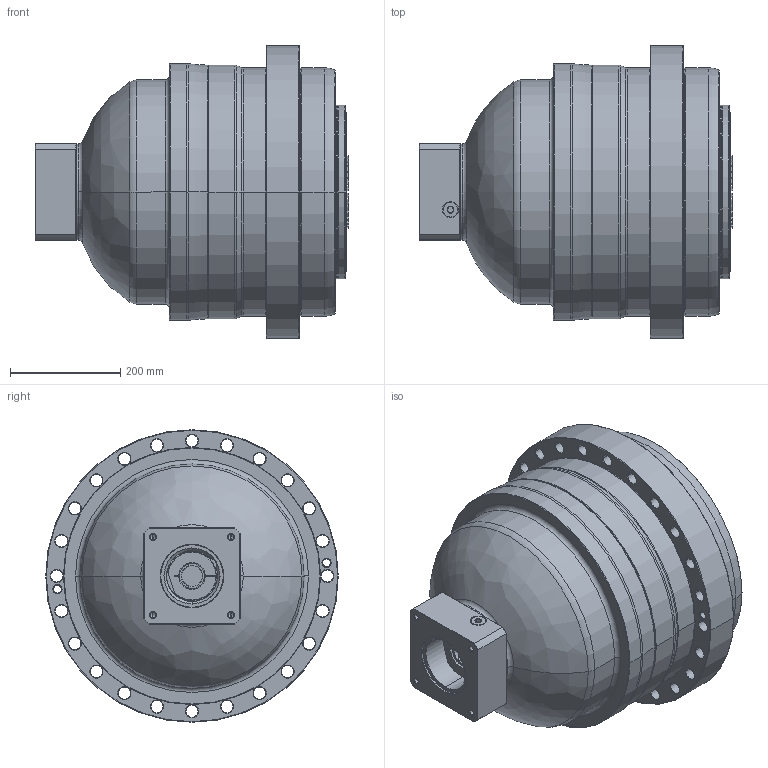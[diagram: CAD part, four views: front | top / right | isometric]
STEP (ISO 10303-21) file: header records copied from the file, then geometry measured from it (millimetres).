
FILE_DESCRIPTION((''),'2;1');
FILE_NAME('APC450_3ST_38-P0409910201_ASM','2018-11-01T',('d01226'),(''),'PRO/ENGINEER BY PARAMETRIC TECHNOLOGY CORPORATION, 2015240','PRO/ENGINEER BY PARAMETRIC TECHNOLOGY CORPORATION, 2015240','');
FILE_SCHEMA(('CONFIG_CONTROL_DESIGN'));
Length unit declared in the file: millimetre
Products named in the file (9): P0276201003; P03572B0103; P1366A00101; P0503900012; P0912701001; P1222200001; P0409910201; 21711422019; APC450_3ST_38-P0409910201_ASM
Assembly tree (8 placements, depth 2):
  APC450_3ST_38-P0409910201_ASM
    P0276201003
    P03572B0103
    P1366A00101
    P0503900012
    P0912701001
    P1222200001
    P0409910201
    21711422019
Bounding box: 567.6 x 530 x 530 mm (x, y, z)
Volume: 78857031.5 mm3; surface area: 2116841.5 mm2
Topology: 9 solids, 34 shells, 984 faces, 2440 edges, 1491 vertices
Faces by surface type: cone 336, cylinder 300, plane 181, torus 153, bspline 14
Entity records: 35549 total; most frequent: CARTESIAN_POINT 11879, DIRECTION 5289, ORIENTED_EDGE 4682, EDGE_CURVE 2390, AXIS2_PLACEMENT_3D 2298, VERTEX_POINT 1491, CIRCLE 1299, EDGE_LOOP 1117
